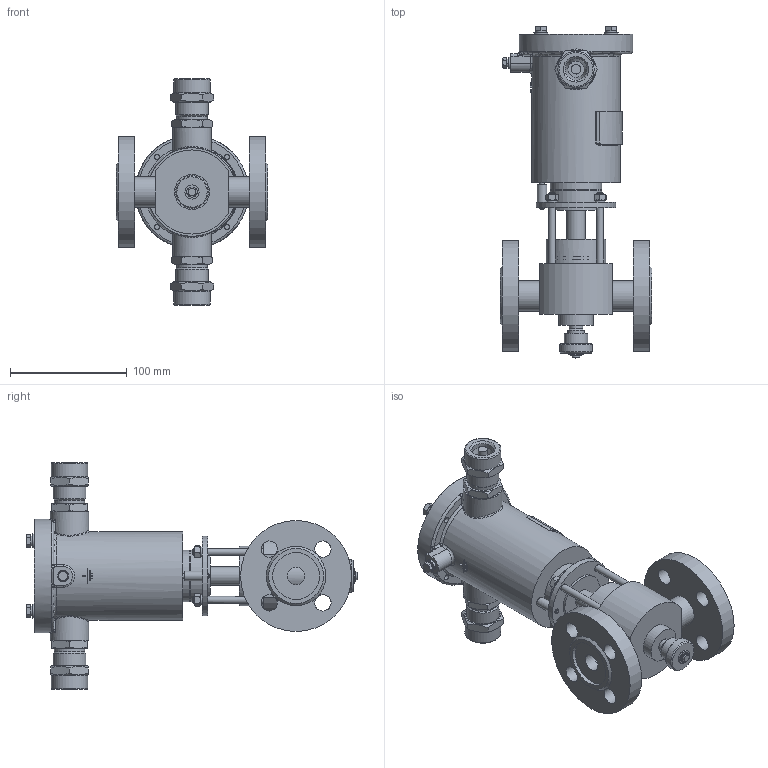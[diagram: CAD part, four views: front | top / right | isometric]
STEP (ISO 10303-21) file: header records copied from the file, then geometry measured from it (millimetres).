
FILE_DESCRIPTION(('STEP AP203'), '1');
FILE_NAME('ÑÅÍÑ DN15PN25-Â-ÍÎ-200Ñ.stp', '2018-09-19T08:55:27', ('Îðëîâ Å.Â.'), ('ÎÎÎ ÍÏÏ Ñåíñîð'), 'ASCON STEP Converter 1.3', 'Kompas 3D', '');
FILE_SCHEMA(('CONFIG_CONTROL_DESIGN','SUPPORT_RESOURCE_SCHEMA'));
Length unit declared in the file: millimetre
Products named in the file (1): 109
Bounding box: 130 x 284.2 x 194 mm (x, y, z)
Volume: 777824.2 mm3; surface area: 238104.5 mm2
Topology: 3 solids, 25 shells, 1928 faces, 5086 edges, 3318 vertices
Faces by surface type: cylinder 998, plane 728, cone 138, bspline 29, torus 19, extrusion 16
Full cylindrical faces by diameter (mm): 2.459 x4, 4 x8, 4.134 x1, 4.5 x2, 4.917 x8, 5 x2, 5.1 x1, 6 x15, 6.3 x2, 6.4 x1, 6.5 x11, 7 x1, 8 x8, 10 x3, 11.5 x1, 12 x5, 12.4 x1, 13 x2, 14 x9, 15 x2, 16 x2, 16.376 x1, 18 x1, 18.632 x2, 20 x5, 22 x2, 22.376 x2, 23.5 x3, 24 x3, 24.5 x4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
Entity records: 72523 total; most frequent: CARTESIAN_POINT 23425, DIRECTION 10714, ORIENTED_EDGE 10116, EDGE_CURVE 5058, AXIS2_PLACEMENT_3D 4135, VERTEX_POINT 3310, VECTOR 2444, LINE 2428
